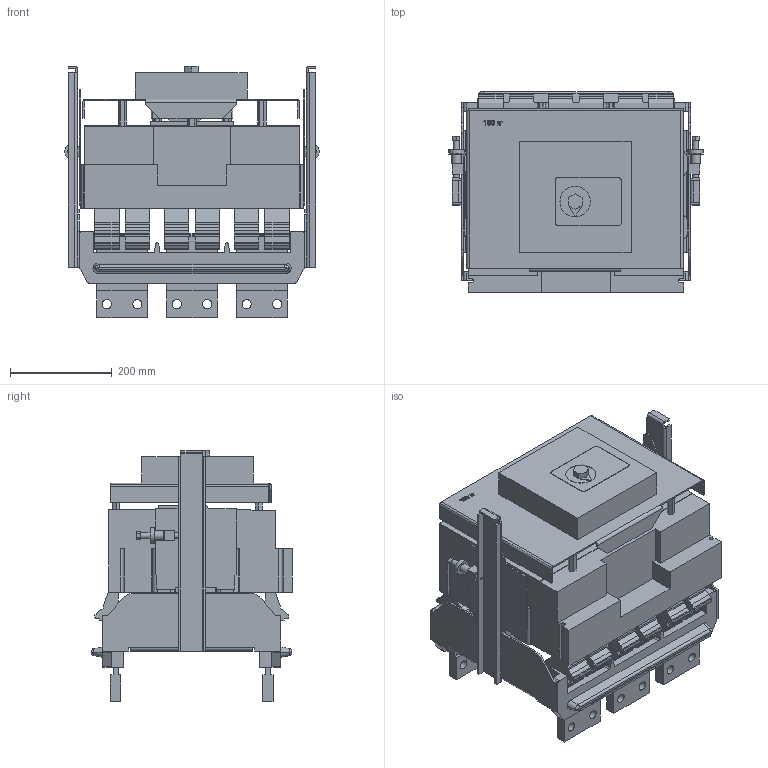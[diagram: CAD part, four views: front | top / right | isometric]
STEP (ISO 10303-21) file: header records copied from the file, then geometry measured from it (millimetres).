
FILE_DESCRIPTION (( 'STEP AP214' ), '1' );
FILE_NAME ('ÂÀ 56-43 âûäâèæíîå èñïîëíåíèå ñ ýëåêòðîìàãíèòíûì ïðèâîäîì 1600À.STEP', '2023-02-13T06:41:44', ( '' ), ( '' ), 'SwSTEP 2.0', 'SolidWorks 2018', '' );
FILE_SCHEMA (( 'AUTOMOTIVE_DESIGN' ));
Length unit declared in the file: millimetre
Products named in the file (1): ÂÀ 56-43 âûäâèæíîå èñïîëíåíèå ñ ýëåêòðîìàãíèòíûì ïðèâîäîì 1600À
Bounding box: 501 x 395 x 494.6 mm (x, y, z)
Volume: 32676860.3 mm3; surface area: 2077441.8 mm2
Topology: 1 solids, 1 shells, 1208 faces, 3671 edges, 2446 vertices
Faces by surface type: plane 876, cylinder 322, bspline 8, cone 2
Full cylindrical faces by diameter (mm): 12 x6, 12.2 x2, 13.2 x4, 18 x14, 30 x2, 60 x1
Entity records: 41590 total; most frequent: CARTESIAN_POINT 8119, ORIENTED_EDGE 7246, DIRECTION 6648, EDGE_CURVE 3623, LINE 2874, VECTOR 2874, VERTEX_POINT 2429, AXIS2_PLACEMENT_3D 1887
